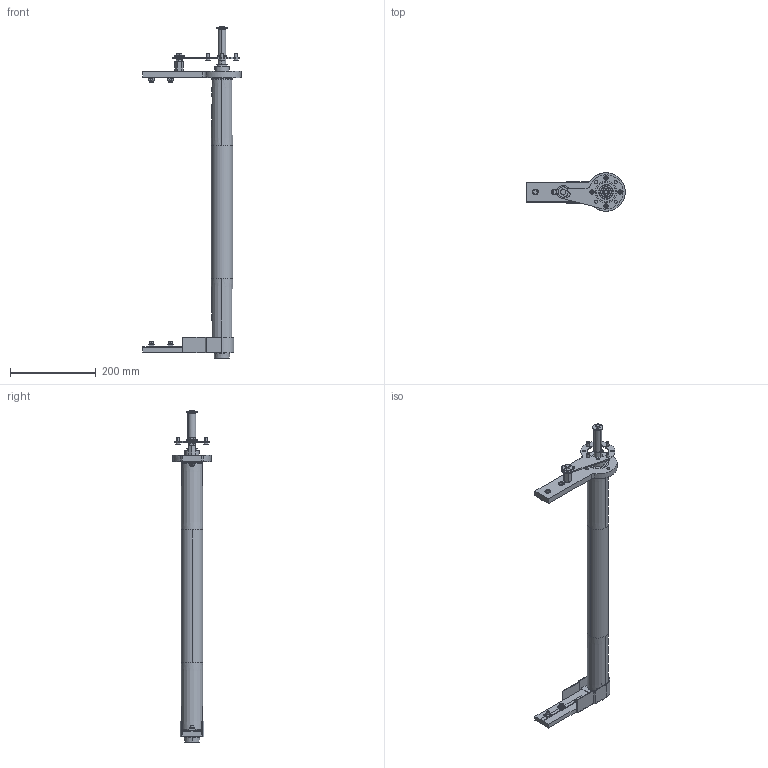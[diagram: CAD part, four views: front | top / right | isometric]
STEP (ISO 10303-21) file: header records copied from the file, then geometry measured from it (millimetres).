
FILE_DESCRIPTION (( 'STEP AP203' ), '1' );
FILE_NAME ('084.050.KD.44.600.STEP', '2019-11-25T08:16:20', ( 'Localadmin' ), ( 'Microsoft' ), 'SwSTEP 2.0', 'SolidWorks 2018', '' );
FILE_SCHEMA (( 'CONFIG_CONTROL_DESIGN' ));
Length unit declared in the file: millimetre
Products named in the file (26): RONDELLE FASCIA LARGA UNI 6593_8.4x24 UNI 6593; 084.810.001; 084.301.000 VITI ALUSIC_084.301.010; VITI TE UNI 5739_M8x25 UNI 5739; 084.802.027; DADI ESAGONALI RIBASSATI UNI 5589_M8 UNI 5589; 084.050.KD.44.600; 084.807.005; VITI TSEI UNI 5933_M4x12 UNI 5933; 084.807.001_084.807.001; RONDELLE FASCIA LARGA UNI 6593_6.4x24 UNI 6593; 084.802.023_084.802.023; 084.802.034_084.802.034; VITI TE UNI 5739_M6x16 UNI 5739; 084.807.002_084.807.002; Circlip DIN 471 - 18 x 1.2_Circlip DIN 471 - 18 x 1.2; 084.811.002; 084.301.000 VITI ALUSIC_084.301.003; 084.802.017_084.802.017; Parte104^084.050.KD.44.600; 084.302.000 DADI ALUSIC 13x13_084.302.004; 084.811.004; CHIAVETTE_A 5x5x25 UNI 6604-69; GRANI A PUNTA PIATTA UNI 5923_M8x25 UNI 5923; 084.815.123_Default<A macchina>; CHIAVETTE_A 6x6x60 UNI 6604-69
Assembly tree (36 placements, depth 2):
  084.050.KD.44.600
    084.802.023_084.802.023
    084.807.002_084.807.002
    084.802.017_084.802.017
    084.811.004
    084.815.123_Default<A macchina>
    084.810.001  x2
    084.802.027
    084.807.005
    084.807.001_084.807.001
    084.802.034_084.802.034
    084.811.002
    Circlip DIN 471 - 18 x 1.2_Circlip DIN 471 - 18 x 1.2
    Parte104^084.050.KD.44.600
    CHIAVETTE_A 5x5x25 UNI 6604-69
    CHIAVETTE_A 6x6x60 UNI 6604-69
    084.301.000 VITI ALUSIC_084.301.010  x4
    DADI ESAGONALI RIBASSATI UNI 5589_M8 UNI 5589
    VITI TSEI UNI 5933_M4x12 UNI 5933  x2
    RONDELLE FASCIA LARGA UNI 6593_6.4x24 UNI 6593
    VITI TE UNI 5739_M6x16 UNI 5739
    084.301.000 VITI ALUSIC_084.301.003  x4
    084.302.000 DADI ALUSIC 13x13_084.302.004  x4
    GRANI A PUNTA PIATTA UNI 5923_M8x25 UNI 5923
    RONDELLE FASCIA LARGA UNI 6593_8.4x24 UNI 6593
    VITI TE UNI 5739_M8x25 UNI 5739
Bounding box: 230 x 90 x 775 mm (x, y, z)
Volume: 829720.3 mm3; surface area: 481550.3 mm2
Topology: 41 solids, 42 shells, 919 faces, 2236 edges, 1440 vertices
Faces by surface type: plane 403, cylinder 305, cone 116, torus 78, sphere 9, bspline 8
Entity records: 24655 total; most frequent: CARTESIAN_POINT 4400, DIRECTION 3827, ORIENTED_EDGE 3420, EDGE_CURVE 1710, AXIS2_PLACEMENT_3D 1508, VERTEX_POINT 1103, EDGE_LOOP 823, LINE 811
